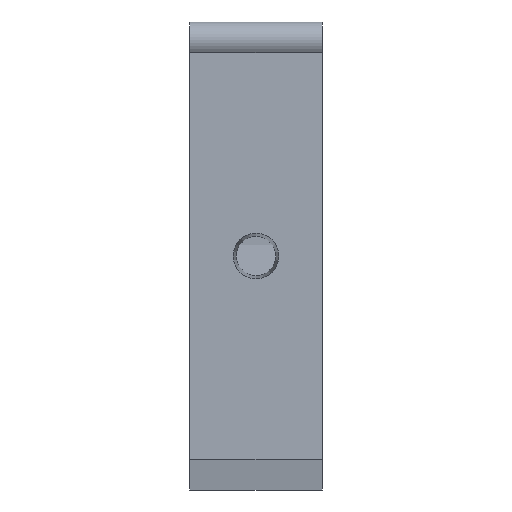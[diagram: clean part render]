
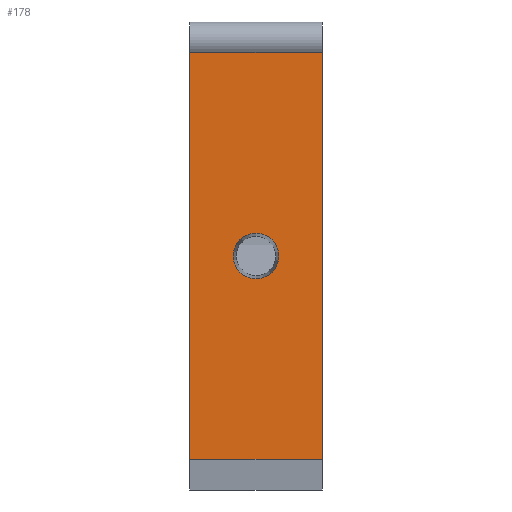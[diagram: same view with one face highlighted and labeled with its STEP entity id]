
A CAD part, front view. The second image highlights one B-rep face of the part: STEP entity #178.
In plain terms, the highlighted planar face has unit normal (0, -1, 0).
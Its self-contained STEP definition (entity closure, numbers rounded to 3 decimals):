
#178=ADVANCED_FACE('',(#1049,#1051),#1053,.T.);
#1049=FACE_BOUND('',#1050,.T.);
#1050=EDGE_LOOP('',(#2276,#2277,#2278,#2279));
#1051=FACE_BOUND('',#1052,.T.);
#1052=EDGE_LOOP('',(#2280));
#1053=PLANE('',#1054);
#1054=AXIS2_PLACEMENT_3D('',#1055,#1056,#1057);
#1055=CARTESIAN_POINT('',(-7.5,-26.4,23.));
#1056=DIRECTION('',(0.,-1.,0.));
#1057=DIRECTION('',(0.,0.,-1.));
#2276=ORIENTED_EDGE('',*,*,#2878,.T.);
#2277=ORIENTED_EDGE('',*,*,#2879,.T.);
#2278=ORIENTED_EDGE('',*,*,#2836,.F.);
#2279=ORIENTED_EDGE('',*,*,#2877,.F.);
#2280=ORIENTED_EDGE('',*,*,#2880,.T.);
#2836=EDGE_CURVE('',#3529,#3531,#3532,.T.);
#2877=EDGE_CURVE('',#3605,#3529,#3607,.T.);
#2878=EDGE_CURVE('',#3605,#3608,#3609,.T.);
#2879=EDGE_CURVE('',#3608,#3531,#3610,.T.);
#2880=EDGE_CURVE('',#3611,#3611,#3612,.T.);
#3529=VERTEX_POINT('',#4997);
#3531=VERTEX_POINT('',#5002);
#3532=LINE('',#5003,#5004);
#3605=VERTEX_POINT('',#5176);
#3607=LINE('',#5181,#5182);
#3608=VERTEX_POINT('',#5184);
#3609=LINE('',#5185,#5186);
#3610=LINE('',#5188,#5189);
#3611=VERTEX_POINT('',#5191);
#3612=CIRCLE('',#5192,2.595);
#4997=CARTESIAN_POINT('',(7.5,-26.4,23.));
#5002=CARTESIAN_POINT('',(7.5,-26.4,-23.));
#5003=CARTESIAN_POINT('',(7.5,-26.4,23.));
#5004=VECTOR('',#5005,1.);
#5005=DIRECTION('',(0.,0.,-1.));
#5176=CARTESIAN_POINT('',(-7.5,-26.4,23.));
#5181=CARTESIAN_POINT('',(-7.5,-26.4,23.));
#5182=VECTOR('',#5183,1.);
#5183=DIRECTION('',(1.,0.,0.));
#5184=CARTESIAN_POINT('',(-7.5,-26.4,-23.));
#5185=CARTESIAN_POINT('',(-7.5,-26.4,23.));
#5186=VECTOR('',#5187,1.);
#5187=DIRECTION('',(0.,0.,-1.));
#5188=CARTESIAN_POINT('',(-7.5,-26.4,-23.));
#5189=VECTOR('',#5190,1.);
#5190=DIRECTION('',(1.,0.,0.));
#5191=CARTESIAN_POINT('',(0.,-26.4,-2.595));
#5192=AXIS2_PLACEMENT_3D('',#5193,#5194,#5195);
#5193=CARTESIAN_POINT('',(0.,-26.4,0.));
#5194=DIRECTION('',(0.,1.,0.));
#5195=DIRECTION('',(0.,0.,-1.));
